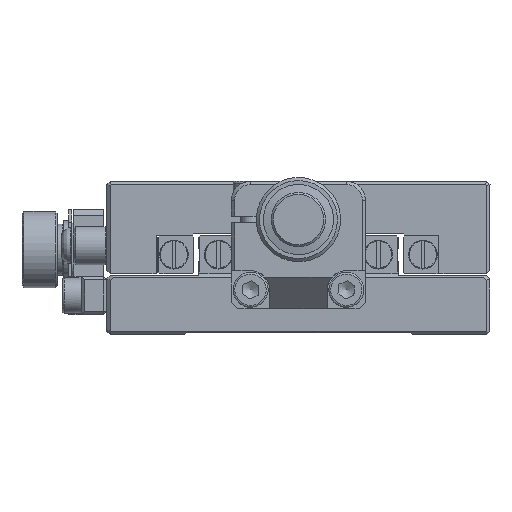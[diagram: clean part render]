
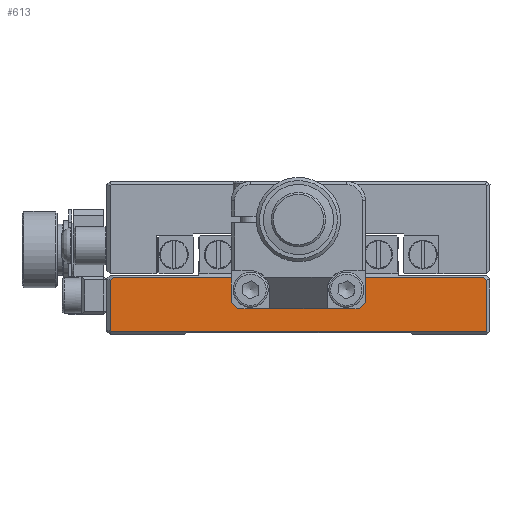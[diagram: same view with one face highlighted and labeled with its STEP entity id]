
A CAD part, front view. The second image highlights one B-rep face of the part: STEP entity #613.
In plain terms, the highlighted planar face has unit normal (0, -1, 0).
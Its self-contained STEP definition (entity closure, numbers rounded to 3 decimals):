
#112=CARTESIAN_POINT('',(-10.,-30.,7.2));
#113=VERTEX_POINT('',#112);
#114=CARTESIAN_POINT('',(-9.7,-30.,7.5));
#115=VERTEX_POINT('',#114);
#116=CARTESIAN_POINT('',(-9.7,-30.,7.2));
#117=DIRECTION('',(0.,1.0,0.));
#118=DIRECTION('',(-0.707,0.,0.707));
#119=AXIS2_PLACEMENT_3D('',#116,#117,#118);
#120=CIRCLE('',#119,0.3);
#121=EDGE_CURVE('',#113,#115,#120,.T.);
#179=CARTESIAN_POINT('',(-10.,-30.,1.5));
#180=VERTEX_POINT('',#179);
#187=CARTESIAN_POINT('',(-10.,-30.,1.5));
#188=DIRECTION('',(0.0,0.,1.0));
#189=VECTOR('',#188,5.7);
#190=LINE('',#187,#189);
#191=EDGE_CURVE('',#180,#113,#190,.T.);
#377=CARTESIAN_POINT('',(9.7,-30.,7.5));
#378=VERTEX_POINT('',#377);
#379=CARTESIAN_POINT('',(10.,-30.,7.2));
#380=VERTEX_POINT('',#379);
#381=CARTESIAN_POINT('',(9.7,-30.,7.2));
#382=DIRECTION('',(0.0,1.,0.));
#383=DIRECTION('',(0.707,0.,0.707));
#384=AXIS2_PLACEMENT_3D('',#381,#382,#383);
#385=CIRCLE('',#384,0.3);
#386=EDGE_CURVE('',#378,#380,#385,.T.);
#410=CARTESIAN_POINT('',(10.,-30.,1.5));
#411=VERTEX_POINT('',#410);
#412=CARTESIAN_POINT('',(10.,-30.,7.2));
#413=DIRECTION('',(0.0,0.,-1.0));
#414=VECTOR('',#413,5.7);
#415=LINE('',#412,#414);
#416=EDGE_CURVE('',#380,#411,#415,.T.);
#444=CARTESIAN_POINT('',(0.,-30.,-1.271));
#445=DIRECTION('',(0.,1.0,0.));
#446=DIRECTION('',(0.,0.,1.0));
#447=AXIS2_PLACEMENT_3D('',#444,#445,#446);
#448=PLANE('',#447);
#449=ORIENTED_EDGE('',*,*,#121,.F.);
#450=ORIENTED_EDGE('',*,*,#191,.F.);
#451=CARTESIAN_POINT('',(-28.993,-30.,1.5));
#452=VERTEX_POINT('',#451);
#453=CARTESIAN_POINT('',(-28.993,-30.,1.5));
#454=DIRECTION('',(1.0,0.0,0.0));
#455=VECTOR('',#454,18.993);
#456=LINE('',#453,#455);
#457=EDGE_CURVE('',#452,#180,#456,.T.);
#458=ORIENTED_EDGE('',*,*,#457,.F.);
#459=CARTESIAN_POINT('',(-29.5,-30.,0.993));
#460=VERTEX_POINT('',#459);
#461=CARTESIAN_POINT('',(-29.5,-30.,0.993));
#462=DIRECTION('',(0.707,0.,0.707));
#463=VECTOR('',#462,0.717);
#464=LINE('',#461,#463);
#465=EDGE_CURVE('',#460,#452,#464,.T.);
#466=ORIENTED_EDGE('',*,*,#465,.F.);
#467=CARTESIAN_POINT('',(-29.5,-30.,-6.793));
#468=VERTEX_POINT('',#467);
#469=CARTESIAN_POINT('',(-29.5,-30.,-6.793));
#470=DIRECTION('',(0.0,0.,1.0));
#471=VECTOR('',#470,7.786);
#472=LINE('',#469,#471);
#473=EDGE_CURVE('',#468,#460,#472,.T.);
#474=ORIENTED_EDGE('',*,*,#473,.F.);
#475=CARTESIAN_POINT('',(-29.293,-30.,-7.));
#476=VERTEX_POINT('',#475);
#477=CARTESIAN_POINT('',(-29.293,-30.,-7.));
#478=DIRECTION('',(-0.707,0.,0.707));
#479=VECTOR('',#478,0.293);
#480=LINE('',#477,#479);
#481=EDGE_CURVE('',#476,#468,#480,.T.);
#482=ORIENTED_EDGE('',*,*,#481,.F.);
#483=CARTESIAN_POINT('',(29.5,-30.,-7.));
#484=VERTEX_POINT('',#483);
#485=CARTESIAN_POINT('',(29.5,-30.,-7.));
#486=DIRECTION('',(-1.0,0.0,0.0));
#487=VECTOR('',#486,58.793);
#488=LINE('',#485,#487);
#489=EDGE_CURVE('',#484,#476,#488,.T.);
#490=ORIENTED_EDGE('',*,*,#489,.F.);
#491=CARTESIAN_POINT('',(29.5,-30.,0.993));
#492=VERTEX_POINT('',#491);
#493=CARTESIAN_POINT('',(29.5,-30.,0.993));
#494=DIRECTION('',(0.,0.,-1.0));
#495=VECTOR('',#494,7.993);
#496=LINE('',#493,#495);
#497=EDGE_CURVE('',#492,#484,#496,.T.);
#498=ORIENTED_EDGE('',*,*,#497,.F.);
#499=CARTESIAN_POINT('',(28.993,-30.,1.5));
#500=VERTEX_POINT('',#499);
#501=CARTESIAN_POINT('',(28.993,-30.,1.5));
#502=DIRECTION('',(0.707,0.,-0.707));
#503=VECTOR('',#502,0.717);
#504=LINE('',#501,#503);
#505=EDGE_CURVE('',#500,#492,#504,.T.);
#506=ORIENTED_EDGE('',*,*,#505,.F.);
#507=CARTESIAN_POINT('',(10.,-30.,1.5));
#508=DIRECTION('',(1.0,0.0,0.0));
#509=VECTOR('',#508,18.993);
#510=LINE('',#507,#509);
#511=EDGE_CURVE('',#411,#500,#510,.T.);
#512=ORIENTED_EDGE('',*,*,#511,.F.);
#513=ORIENTED_EDGE('',*,*,#416,.F.);
#514=ORIENTED_EDGE('',*,*,#386,.F.);
#515=CARTESIAN_POINT('',(3.55,-30.,7.5));
#516=VERTEX_POINT('',#515);
#517=CARTESIAN_POINT('',(3.55,-30.,7.5));
#518=DIRECTION('',(1.0,0.0,0.0));
#519=VECTOR('',#518,6.15);
#520=LINE('',#517,#519);
#521=EDGE_CURVE('',#516,#378,#520,.T.);
#522=ORIENTED_EDGE('',*,*,#521,.F.);
#523=CARTESIAN_POINT('',(3.25,-30.,7.2));
#524=VERTEX_POINT('',#523);
#525=CARTESIAN_POINT('',(3.55,-30.,7.2));
#526=DIRECTION('',(0.,1.0,0.));
#527=DIRECTION('',(1.0,0.,0.));
#528=AXIS2_PLACEMENT_3D('',#525,#526,#527);
#529=CIRCLE('',#528,0.3);
#530=EDGE_CURVE('',#524,#516,#529,.T.);
#531=ORIENTED_EDGE('',*,*,#530,.F.);
#532=CARTESIAN_POINT('',(3.25,-30.,2.5));
#533=VERTEX_POINT('',#532);
#534=CARTESIAN_POINT('',(3.25,-30.,2.5));
#535=DIRECTION('',(0.,0.,1.0));
#536=VECTOR('',#535,4.7);
#537=LINE('',#534,#536);
#538=EDGE_CURVE('',#533,#524,#537,.T.);
#539=ORIENTED_EDGE('',*,*,#538,.F.);
#540=CARTESIAN_POINT('',(3.05,-30.,2.3));
#541=VERTEX_POINT('',#540);
#542=CARTESIAN_POINT('',(3.05,-30.,2.5));
#543=DIRECTION('',(0.,-1.0,0.));
#544=DIRECTION('',(1.0,0.,0.));
#545=AXIS2_PLACEMENT_3D('',#542,#543,#544);
#546=CIRCLE('',#545,0.2);
#547=EDGE_CURVE('',#541,#533,#546,.T.);
#548=ORIENTED_EDGE('',*,*,#547,.F.);
#549=CARTESIAN_POINT('',(-3.05,-30.,2.3));
#550=VERTEX_POINT('',#549);
#551=CARTESIAN_POINT('',(-3.05,-30.,2.3));
#552=DIRECTION('',(1.0,0.0,0.0));
#553=VECTOR('',#552,6.1);
#554=LINE('',#551,#553);
#555=EDGE_CURVE('',#550,#541,#554,.T.);
#556=ORIENTED_EDGE('',*,*,#555,.F.);
#557=CARTESIAN_POINT('',(-3.25,-30.,2.5));
#558=VERTEX_POINT('',#557);
#559=CARTESIAN_POINT('',(-3.05,-30.,2.5));
#560=DIRECTION('',(0.,-1.0,0.));
#561=DIRECTION('',(0.,0.,-1.0));
#562=AXIS2_PLACEMENT_3D('',#559,#560,#561);
#563=CIRCLE('',#562,0.2);
#564=EDGE_CURVE('',#558,#550,#563,.T.);
#565=ORIENTED_EDGE('',*,*,#564,.F.);
#566=CARTESIAN_POINT('',(-3.25,-30.,7.2));
#567=VERTEX_POINT('',#566);
#568=CARTESIAN_POINT('',(-3.25,-30.,7.2));
#569=DIRECTION('',(0.,0.,-1.0));
#570=VECTOR('',#569,4.7);
#571=LINE('',#568,#570);
#572=EDGE_CURVE('',#567,#558,#571,.T.);
#573=ORIENTED_EDGE('',*,*,#572,.F.);
#574=CARTESIAN_POINT('',(-3.55,-30.,7.5));
#575=VERTEX_POINT('',#574);
#576=CARTESIAN_POINT('',(-3.55,-30.,7.2));
#577=DIRECTION('',(0.,1.0,0.));
#578=DIRECTION('',(0.,0.,-1.0));
#579=AXIS2_PLACEMENT_3D('',#576,#577,#578);
#580=CIRCLE('',#579,0.3);
#581=EDGE_CURVE('',#575,#567,#580,.T.);
#582=ORIENTED_EDGE('',*,*,#581,.F.);
#583=CARTESIAN_POINT('',(-9.7,-30.,7.5));
#584=DIRECTION('',(1.0,0.0,0.0));
#585=VECTOR('',#584,6.15);
#586=LINE('',#583,#585);
#587=EDGE_CURVE('',#115,#575,#586,.T.);
#588=ORIENTED_EDGE('',*,*,#587,.F.);
#589=EDGE_LOOP('',(#449,#450,#458,#466,#474,#482,#490,#498,#506,#512,#513,#514,#522,#531,#539,#548,#556,#565,#573,#582,#588));
#590=FACE_OUTER_BOUND('',#589,.T.);
#591=CARTESIAN_POINT('',(9.,-30.,-0.5));
#592=VERTEX_POINT('',#591);
#593=CARTESIAN_POINT('',(7.5,-30.,-0.5));
#594=DIRECTION('',(0.0,1.0,0.));
#595=DIRECTION('',(1.0,0.0,0.0));
#596=AXIS2_PLACEMENT_3D('',#593,#594,#595);
#597=CIRCLE('',#596,1.5);
#598=EDGE_CURVE('',#592,#592,#597,.T.);
#599=ORIENTED_EDGE('',*,*,#598,.T.);
#600=EDGE_LOOP('',(#599));
#601=FACE_BOUND('',#600,.T.);
#602=CARTESIAN_POINT('',(-6.,-30.,-0.5));
#603=VERTEX_POINT('',#602);
#604=CARTESIAN_POINT('',(-7.5,-30.,-0.5));
#605=DIRECTION('',(0.0,1.0,0.));
#606=DIRECTION('',(1.0,0.0,0.0));
#607=AXIS2_PLACEMENT_3D('',#604,#605,#606);
#608=CIRCLE('',#607,1.5);
#609=EDGE_CURVE('',#603,#603,#608,.T.);
#610=ORIENTED_EDGE('',*,*,#609,.T.);
#611=EDGE_LOOP('',(#610));
#612=FACE_BOUND('',#611,.T.);
#613=ADVANCED_FACE('',(#590,#601,#612),#448,.F.);
